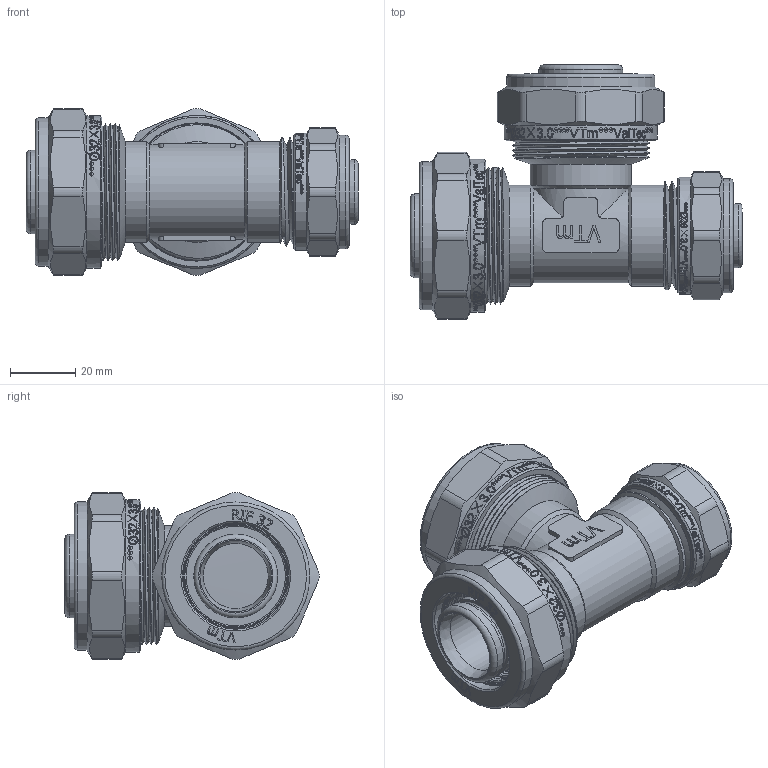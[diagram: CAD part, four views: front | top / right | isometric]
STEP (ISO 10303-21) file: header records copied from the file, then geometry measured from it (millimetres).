
FILE_DESCRIPTION(/* description */ (''),/* implementation_level */ '2;1');
FILE_NAME(/* name */ 'E:\Артём\00000\Работа удаленка\Обжимные фитинги\VTm.331.N.323226.stp',/* time_stamp */ '2020-06-30T12:47:31+03:00',/* author */ ('BeN_GaN'),/* organization */ (''),/* preprocessor_version */ 'ST-DEVELOPER v18',/* originating_system */ 'Autodesk Inventor 2020',/* authorisation */ '');
FILE_SCHEMA (('AUTOMOTIVE_DESIGN { 1 0 10303 214 3 1 1 }'));
Length unit declared in the file: millimetre
Products named in the file (1): VTm.331.N.323226
Bounding box: 102 x 78.15 x 51.3 mm (x, y, z)
Volume: 108576.9 mm3; surface area: 54039.8 mm2
Topology: 1 solids, 1 shells, 2071 faces, 5891 edges, 3973 vertices
Faces by surface type: bspline 1132, plane 561, cylinder 259, torus 72, cone 47
Full cylindrical faces by diameter (mm): 15 x1, 17.4 x2, 19.8 x5, 20 x2, 23.4 x4, 24.516 x4, 25.435 x5, 25.75 x10, 26.2 x1, 26.7 x1, 28.5 x1, 28.7 x2, 29 x1, 30.5 x2, 30.538 x8, 31 x3, 31.683 x10, 32.2 x2, 32.7 x2, 35 x1, 35.5 x2, 36 x1, 40.38 x16, 40.5 x6, 42 x6, 45.5 x2, 47 x2
Entity records: 91107 total; most frequent: CARTESIAN_POINT 44567, ORIENTED_EDGE 11782, DIRECTION 6089, EDGE_CURVE 5891, VERTEX_POINT 3974, LINE 2495, VECTOR 2495, B_SPLINE_CURVE_WITH_KNOTS 2491
